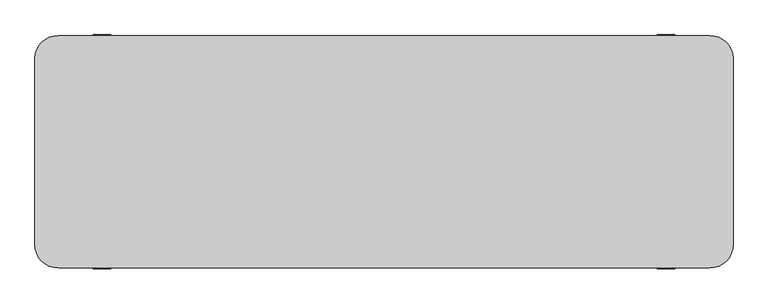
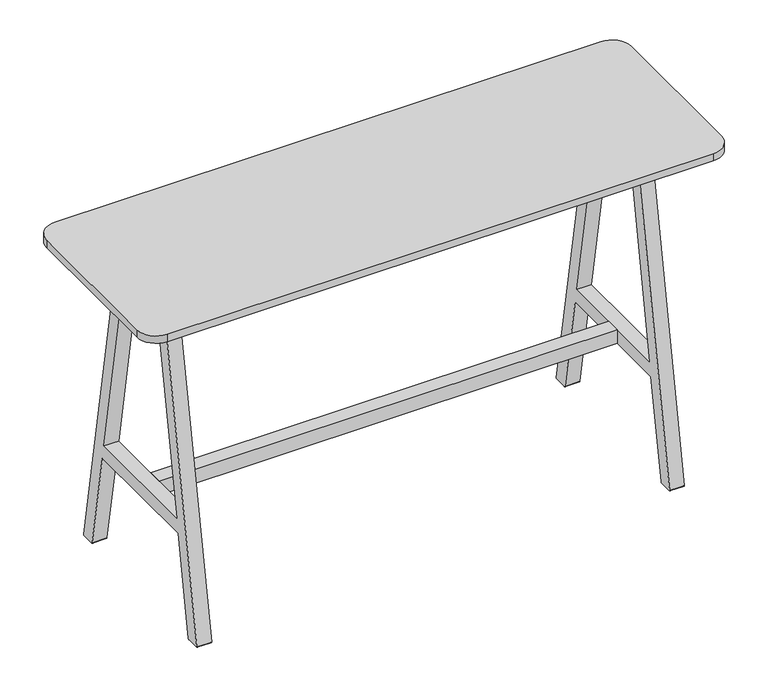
"""IFC4 building model written with IfcOpenShell, lengths in millimetres: furniture geometry, Furniture-Chair-LyndonDesign-Agent_AGE_10 : Furniture-Chair-LyndonDesign-Agent_AGE_10."""

import ifcopenshell
import ifcopenshell.guid

model = None  # the IFC model being written
_history = None  # IfcOwnerHistory: only IFC2X3 demands one
_inside = {}  # id of a spatial element -> (the spatial element, [elements in it])
_under = {}  # id of a project, library or spatial element -> (it, [spatial elements below it])
_declared = {}  # id of a project -> (the project, [libraries it declares])
_typed = {}  # id of a type object -> (the type object, [elements of that type])
_made_of = {}  # id of a material, layer set ... -> (it, [elements and type objects made of it])


def new_model(schema):
    """Start an empty IFC model of exactly this schema.

    Asked for "IFC4X3", IfcOpenShell would pick the latest addendum, in which some entities
    have other attributes; the version numbers below select the first issue.
    IFC2X3 requires an IfcOwnerHistory on every rooted entity: one is made here for all.
    """
    global model, _history
    if schema == "IFC4X3":
        model = ifcopenshell.file(schema_version=(4, 3, 0, 0))
    else:
        model = ifcopenshell.file(schema=schema)
    _inside.clear()
    _under.clear()
    _declared.clear()
    _typed.clear()
    _made_of.clear()
    _history = None
    if model.schema == "IFC2X3":
        org = make("IfcOrganization", Name="unknown")
        user = make(
            "IfcPersonAndOrganization",
            ThePerson=make("IfcPerson", FamilyName="unknown"),
            TheOrganization=org,
        )
        app = make(
            "IfcApplication",
            ApplicationDeveloper=org,
            Version="unknown",
            ApplicationFullName="unknown",
            ApplicationIdentifier="unknown",
        )
        _history = make(
            "IfcOwnerHistory",
            OwningUser=user,
            OwningApplication=app,
            ChangeAction="ADDED",
            CreationDate=0,
        )
    return model


def make(cls, **values):
    """One entity of the class cls with the attributes given. An attribute that is None is left unset."""
    return model.create_entity(
        cls, **{name: value for name, value in values.items() if value is not None}
    )


def rooted(cls, **values):
    """An entity with a GlobalId (a new one), such as an element, a storey or a relation."""
    return make(cls, GlobalId=ifcopenshell.guid.new(), OwnerHistory=_history, **values)


def si_unit(unit_type, name, prefix=None):
    """IfcSIUnit, for example si_unit("LENGTHUNIT", "METRE", prefix="MILLI")."""
    return make("IfcSIUnit", UnitType=unit_type, Prefix=prefix, Name=name)


def assignment(units):
    """IfcUnitAssignment: the units of a project."""
    return None if units is None else make("IfcUnitAssignment", Units=units)


def point(xyz):
    """IfcCartesianPoint."""
    return None if xyz is None else make("IfcCartesianPoint", Coordinates=xyz)


def direction(xyz):
    """IfcDirection."""
    return None if xyz is None else make("IfcDirection", DirectionRatios=xyz)


def frame(location, z_axis=None, x_axis=None):
    """IfcAxis2Placement3D, a coordinate frame: its origin and axes. An axis left out is left unset."""
    return make(
        "IfcAxis2Placement3D",
        Location=point(location),
        Axis=direction(z_axis),
        RefDirection=direction(x_axis),
    )


def frame_2d(location, x_axis=None):
    """IfcAxis2Placement2D, a coordinate frame in the plane: its origin and x axis."""
    return make(
        "IfcAxis2Placement2D", Location=point(location), RefDirection=direction(x_axis)
    )


def origin():
    """The frame at (0, 0, 0) with its axes left unset."""
    return frame((0.0, 0.0, 0.0))


def place(relative_to, where):
    """IfcLocalPlacement: puts the frame where relative to a parent placement (None: the world)."""
    return make(
        "IfcLocalPlacement", PlacementRelTo=relative_to, RelativePlacement=where
    )


def context(
    kind, dimensions, precision=None, world=None, true_north=None, identifier=None
):
    """IfcGeometricRepresentationContext, for example the 3D "Model" context."""
    return make(
        "IfcGeometricRepresentationContext",
        ContextIdentifier=identifier,
        ContextType=kind,
        CoordinateSpaceDimension=dimensions,
        Precision=precision,
        WorldCoordinateSystem=world,
        TrueNorth=true_north,
    )


def project(units=None, contexts=None):
    """IfcProject with its units and contexts."""
    return rooted(
        "IfcProject",
        Name="project",
        RepresentationContexts=contexts,
        UnitsInContext=assignment(units),
    )


def spatial(cls, under=None, at=None, **own):
    """A site, building, storey or space (cls), placed at a placement, below another one or the project."""
    s = rooted(cls, ObjectPlacement=at, **own)
    if under is not None:
        _under.setdefault(under.id(), (under, []))[1].append(s)
    return s


def polyline(points):
    """IfcPolyline through the points."""
    return make("IfcPolyline", Points=[point(p) for p in points])


def circle_curve(where, radius):
    """IfcCircle in the frame where."""
    return make("IfcCircle", Position=where, Radius=radius)


def trimmed(basis, trim1, trim2, sense, master):
    """IfcTrimmedCurve: the piece of a basis curve between two trims."""
    return make(
        "IfcTrimmedCurve",
        BasisCurve=basis,
        Trim1=trim1,
        Trim2=trim2,
        SenseAgreement=sense,
        MasterRepresentation=master,
    )


def segment(curve, same_sense, transition):
    """IfcCompositeCurveSegment."""
    return make(
        "IfcCompositeCurveSegment",
        Transition=transition,
        SameSense=same_sense,
        ParentCurve=curve,
    )


def composite_curve(segments, self_intersect=None):
    """IfcCompositeCurve: segments joined end to end."""
    return make("IfcCompositeCurve", Segments=segments, SelfIntersect=self_intersect)


def outline(outer, holes=None, kind="AREA"):
    """IfcArbitraryClosedProfileDef: a profile drawn as a closed curve; with holes, ...WithVoids."""
    if holes is None:
        return make("IfcArbitraryClosedProfileDef", ProfileType=kind, OuterCurve=outer)
    return make(
        "IfcArbitraryProfileDefWithVoids",
        ProfileType=kind,
        OuterCurve=outer,
        InnerCurves=holes,
    )


def extrude(swept, where, along, depth):
    """IfcExtrudedAreaSolid: the profile swept, set in the frame where, extruded along a direction by depth."""
    return make(
        "IfcExtrudedAreaSolid",
        SweptArea=swept,
        Position=where,
        ExtrudedDirection=direction(along),
        Depth=depth,
    )


def shape(context_of_items, identifier, shape_type, items):
    """IfcShapeRepresentation: the items that make up one representation, for example the "Body"."""
    return make(
        "IfcShapeRepresentation",
        ContextOfItems=context_of_items,
        RepresentationIdentifier=identifier,
        RepresentationType=shape_type,
        Items=items,
    )


def source(mapping_origin, context_of_items, identifier, shape_type, items):
    """IfcRepresentationMap: a shape defined once, which mapped items show again and again."""
    return make(
        "IfcRepresentationMap",
        MappingOrigin=mapping_origin,
        MappedRepresentation=shape(context_of_items, identifier, shape_type, items),
    )


def transform(
    local_origin,
    x_axis=None,
    y_axis=None,
    z_axis=None,
    scale=None,
    scale2=None,
    scale3=None,
    uniform=True,
):
    """IfcCartesianTransformationOperator3D, or its non-uniform kind. x_axis, y_axis, z_axis: its Axis1, 2, 3."""
    if uniform:
        return make(
            "IfcCartesianTransformationOperator3D",
            Axis1=direction(x_axis),
            Axis2=direction(y_axis),
            LocalOrigin=point(local_origin),
            Scale=scale,
            Axis3=direction(z_axis),
        )
    return make(
        "IfcCartesianTransformationOperator3DnonUniform",
        Axis1=direction(x_axis),
        Axis2=direction(y_axis),
        LocalOrigin=point(local_origin),
        Scale=scale,
        Axis3=direction(z_axis),
        Scale2=scale2,
        Scale3=scale3,
    )


def mapped(mapping_source, mapping_target):
    """IfcMappedItem: shows the shape of a source again, moved by a transform."""
    return make(
        "IfcMappedItem", MappingSource=mapping_source, MappingTarget=mapping_target
    )


def made_of(thing, what):
    """Note that an element or type object is made of a material, layer set ...; save() writes the relation."""
    if what is not None:
        _made_of.setdefault(what.id(), (what, []))[1].append(thing)
    return thing


def element(
    cls,
    number,
    at=None,
    inside=None,
    cuts=None,
    type_object=None,
    material=None,
    context=None,
    identifier="Body",
    shape_type=None,
    held_by="IfcProductDefinitionShape",
    body=None,
    shapes=None,
    **own,
):
    """One element of the class cls, such as IfcWall. Its Tag is "e" and its number.

    at: its placement. inside: the storey or other place that contains it. cuts: it is an
    opening in that element (IfcRelVoidsElement). A single representation is given by context,
    identifier, shape_type and body (its items); several are given by shapes. held_by: the class
    of the entity that holds the representations. save() writes the other relations.
    """
    e = rooted(cls, Tag="e%d" % number, ObjectPlacement=at, **own)
    if body is not None:
        shapes = [shape(context, identifier, shape_type, body)]
    if shapes is not None:
        e.Representation = make(held_by, Representations=shapes)
    if inside is not None:
        _inside.setdefault(inside.id(), (inside, []))[1].append(e)
    if cuts is not None:
        rooted(
            "IfcRelVoidsElement", RelatingBuildingElement=cuts, RelatedOpeningElement=e
        )
    if type_object is not None:
        _typed.setdefault(type_object.id(), (type_object, []))[1].append(e)
    return made_of(e, material)


def aggregate(whole, parts):
    """IfcRelAggregates: a whole, such as a stair, and the parts it consists of."""
    return rooted("IfcRelAggregates", RelatingObject=whole, RelatedObjects=parts)


def save(model, path):
    """Write the relations noted so far, then the file.

    IfcRelAggregates (storeys below a building ...), IfcRelContainedInSpatialStructure (elements
    in a storey), IfcRelDefinesByType, IfcRelAssociatesMaterial and IfcRelDeclares: one each for
    every whole, place, type object, material and project.
    """
    for whole, parts in _under.values():
        aggregate(whole, parts)
    for where, things in _inside.values():
        rooted(
            "IfcRelContainedInSpatialStructure",
            RelatedElements=things,
            RelatingStructure=where,
        )
    for kind, things in _typed.values():
        rooted("IfcRelDefinesByType", RelatedObjects=things, RelatingType=kind)
    for what, things in _made_of.values():
        rooted("IfcRelAssociatesMaterial", RelatedObjects=things, RelatingMaterial=what)
    for by, libraries in _declared.values():
        rooted("IfcRelDeclares", RelatingContext=by, RelatedDefinitions=libraries)
    model.write(path)


def furniture_8b7b97e6(model_context):
    return source(origin(), model_context, "Body", "SweptSolid", [
        extrude(outline(polyline([(-124.2925259, 946.4629989), (-110.2680065, 1026.0), (-85.8977679, 1026.0), (-100.657585, 942.292918), (-124.2925259, 946.4629989)])), frame((-704.9999416, 0.0, 0.0), z_axis=(1.0, 0.0, 0.0), x_axis=(0.0, 1.0, 0.0)), (0.0, 0.0, 1.0), 1410.0),
        extrude(outline(polyline([(124.2925259, 946.4629989), (100.657585, 942.292918), (85.8977679, 1026.0), (110.2680065, 1026.0), (124.2925259, 946.4629989)])), frame((-704.9999416, 0.0, 0.0), z_axis=(1.0, 0.0, 0.0), x_axis=(0.0, 1.0, 0.0)), (0.0, 0.0, 1.0), 1410.0),
        extrude(outline(polyline([(705.0000584, -22.5), (-704.9999416, -22.5), (-704.9999416, 22.5), (705.0000584, 22.5), (705.0000584, -22.5)])), frame((0.0, 0.0, 311.000006), z_axis=(0.0, 0.0, 1.0), x_axis=(1.0, 0.0, 0.0)), (0.0, 0.0, 1.0), 44.9999869),
        extrude(outline(composite_curve([segment(trimmed(circle_curve(frame_2d((178.499994, 1029.9999908)), 44.0000027), [point((222.3178022, 1026.0))], [point((178.499994, 985.9999881))], False, "CARTESIAN"), True, "CONTINUOUS"), segment(polyline([(178.499994, 985.9999881), (142.6314983, 985.9999881)]), True, "CONTINUOUS"), segment(trimmed(circle_curve(frame_2d((142.6314983, 973.9754464)), 12.0245417), [point((142.6314983, 985.9999881))], [point((130.6287068, 973.2525357))], True, "CARTESIAN"), True, "CONTINUOUS"), segment(polyline([(130.6287068, 973.2525357), (301.8254972, 2.3472964)]), True, "CONTINUOUS"), segment(trimmed(circle_curve(frame_2d((299.8558817, 2.0)), 2.0), [point((301.8254972, 2.3472964))], [point((299.8558817, 0.0))], False, "CARTESIAN"), True, "CONTINUOUS"), segment(polyline([(299.8558817, 0.0), (259.8825388, 0.0)]), True, "CONTINUOUS"), segment(trimmed(circle_curve(frame_2d((259.8825388, 3.9773014)), 3.9773014), [point((259.8825388, 0.0))], [point((255.9656616, 3.2866503))], False, "CARTESIAN"), True, "CONTINUOUS"), segment(polyline([(255.9656616, 3.2866503), (201.7074943, 311.000006), (-201.7804075, 311.000006), (-256.0692295, 3.3049865)]), True, "CONTINUOUS"), segment(trimmed(circle_curve(frame_2d((-260.0083863, 4.0)), 4.0), [point((-256.0692295, 3.3049865))], [point((-260.0083863, 0.0))], False, "CARTESIAN"), True, "CONTINUOUS"), segment(polyline([(-260.0083863, 0.0), (-299.9616001, 0.0)]), True, "CONTINUOUS"), segment(trimmed(circle_curve(frame_2d((-299.9616001, 2.0)), 2.0), [point((-299.9616001, 0.0))], [point((-301.9312156, 2.3472964))], False, "CARTESIAN"), True, "CONTINUOUS"), segment(polyline([(-301.9312156, 2.3472964), (-130.6069566, 973.9754464)]), True, "CONTINUOUS"), segment(trimmed(circle_curve(frame_2d((-142.6314983, 973.9754464)), 12.0245417), [point((-130.6069566, 973.9754464))], [point((-142.6314983, 985.9999881))], True, "CARTESIAN"), True, "CONTINUOUS"), segment(polyline([(-142.6314983, 985.9999881), (-178.499994, 985.9999881)]), True, "CONTINUOUS"), segment(trimmed(circle_curve(frame_2d((-178.499994, 1029.9999908)), 44.0000027), [point((-178.499994, 985.9999881))], [point((-222.3178022, 1026.0))], False, "CARTESIAN"), True, "CONTINUOUS"), segment(polyline([(-222.3178022, 1026.0), (222.3178022, 1026.0)]), True, "CONTINUOUS")], self_intersect=False), holes=[composite_curve([segment(trimmed(circle_curve(frame_2d((-67.9999973, 968.4119913)), 17.5879967), [point((-67.9999973, 985.9999881))], [point((-84.9790372, 973.0000012))], True, "CARTESIAN"), True, "CONTINUOUS"), segment(polyline([(-84.9790372, 973.0000012), (-193.8407396, 355.9999928), (193.7727825, 355.9999928), (84.9790259, 973.0000428)]), True, "CONTINUOUS"), segment(trimmed(circle_curve(frame_2d((67.9999973, 968.4119913)), 17.5879967), [point((84.9790259, 973.0000428))], [point((67.9999973, 985.9999881))], True, "CARTESIAN"), True, "CONTINUOUS"), segment(polyline([(67.9999973, 985.9999881), (-67.9999973, 985.9999881)]), True, "CONTINUOUS")], self_intersect=False)]), frame((-749.9999416, 0.0, 0.0), z_axis=(1.0, 0.0, 0.0), x_axis=(0.0, 1.0, 0.0)), (0.0, 0.0, 1.0), 45.0),
        extrude(outline(composite_curve([segment(trimmed(circle_curve(frame_2d((178.499994, 1029.9999908)), 44.0000027), [point((222.3178022, 1026.0))], [point((178.499994, 985.9999881))], False, "CARTESIAN"), True, "CONTINUOUS"), segment(polyline([(178.499994, 985.9999881), (142.6314983, 985.9999881)]), True, "CONTINUOUS"), segment(trimmed(circle_curve(frame_2d((142.6314983, 973.9754464)), 12.0245417), [point((142.6314983, 985.9999881))], [point((130.6287068, 973.2525357))], True, "CARTESIAN"), True, "CONTINUOUS"), segment(polyline([(130.6287068, 973.2525357), (301.8254972, 2.3472964)]), True, "CONTINUOUS"), segment(trimmed(circle_curve(frame_2d((299.8558817, 2.0)), 2.0), [point((301.8254972, 2.3472964))], [point((299.8558817, 0.0))], False, "CARTESIAN"), True, "CONTINUOUS"), segment(polyline([(299.8558817, 0.0), (259.8825388, 0.0)]), True, "CONTINUOUS"), segment(trimmed(circle_curve(frame_2d((259.8825388, 3.9773014)), 3.9773014), [point((259.8825388, 0.0))], [point((255.9656616, 3.2866503))], False, "CARTESIAN"), True, "CONTINUOUS"), segment(polyline([(255.9656616, 3.2866503), (201.7074943, 311.000006), (-201.7804075, 311.000006), (-256.0692295, 3.3049865)]), True, "CONTINUOUS"), segment(trimmed(circle_curve(frame_2d((-260.0083863, 4.0)), 4.0), [point((-256.0692295, 3.3049865))], [point((-260.0083863, 0.0))], False, "CARTESIAN"), True, "CONTINUOUS"), segment(polyline([(-260.0083863, 0.0), (-299.9616001, 0.0)]), True, "CONTINUOUS"), segment(trimmed(circle_curve(frame_2d((-299.9616001, 2.0)), 2.0), [point((-299.9616001, 0.0))], [point((-301.9312156, 2.3472964))], False, "CARTESIAN"), True, "CONTINUOUS"), segment(polyline([(-301.9312156, 2.3472964), (-130.6069566, 973.9754464)]), True, "CONTINUOUS"), segment(trimmed(circle_curve(frame_2d((-142.6314983, 973.9754464)), 12.0245417), [point((-130.6069566, 973.9754464))], [point((-142.6314983, 985.9999881))], True, "CARTESIAN"), True, "CONTINUOUS"), segment(polyline([(-142.6314983, 985.9999881), (-178.499994, 985.9999881)]), True, "CONTINUOUS"), segment(trimmed(circle_curve(frame_2d((-178.499994, 1029.9999908)), 44.0000027), [point((-178.499994, 985.9999881))], [point((-222.3178022, 1026.0))], False, "CARTESIAN"), True, "CONTINUOUS"), segment(polyline([(-222.3178022, 1026.0), (222.3178022, 1026.0)]), True, "CONTINUOUS")], self_intersect=False), holes=[composite_curve([segment(trimmed(circle_curve(frame_2d((-67.9999973, 968.4119913)), 17.5879967), [point((-67.9999973, 985.9999881))], [point((-84.9790372, 973.0000012))], True, "CARTESIAN"), True, "CONTINUOUS"), segment(polyline([(-84.9790372, 973.0000012), (-193.8407396, 355.9999928), (193.7727825, 355.9999928), (84.9790259, 973.0000428)]), True, "CONTINUOUS"), segment(trimmed(circle_curve(frame_2d((67.9999973, 968.4119913)), 17.5879967), [point((84.9790259, 973.0000428))], [point((67.9999973, 985.9999881))], True, "CARTESIAN"), True, "CONTINUOUS"), segment(polyline([(67.9999973, 985.9999881), (-67.9999973, 985.9999881)]), True, "CONTINUOUS")], self_intersect=False)]), frame((705.0000584, 0.0, 0.0), z_axis=(1.0, 0.0, 0.0), x_axis=(0.0, 1.0, 0.0)), (0.0, 0.0, 1.0), 45.0),
        extrude(outline(composite_curve([segment(polyline([(-839.9999774, 300.0000071), (840.0000345, 300.0000071)]), True, "CONTINUOUS"), segment(trimmed(circle_curve(frame_2d((840.0000345, 240.0000071)), 60.0), [point((840.0000345, 300.0000071))], [point((900.0000345, 240.0000071))], False, "CARTESIAN"), True, "CONTINUOUS"), segment(polyline([(900.0000345, 240.0000071), (900.0000345, -240.0000021)]), True, "CONTINUOUS"), segment(trimmed(circle_curve(frame_2d((840.0000345, -240.0000021)), 60.0), [point((900.0000345, -240.0000021))], [point((840.0000345, -300.0000021))], False, "CARTESIAN"), True, "CONTINUOUS"), segment(polyline([(840.0000345, -300.0000021), (-839.9999774, -300.0000021)]), True, "CONTINUOUS"), segment(trimmed(circle_curve(frame_2d((-839.9999774, -240.0000021)), 60.0), [point((-839.9999774, -300.0000021))], [point((-899.9999774, -240.0000021))], False, "CARTESIAN"), True, "CONTINUOUS"), segment(polyline([(-899.9999774, -240.0000021), (-899.9999774, 240.0000071)]), True, "CONTINUOUS"), segment(trimmed(circle_curve(frame_2d((-839.9999774, 240.0000071)), 60.0), [point((-899.9999774, 240.0000071))], [point((-839.9999774, 300.0000071))], False, "CARTESIAN"), True, "CONTINUOUS")], self_intersect=False)), frame((0.0, 0.0, 1026.0), z_axis=(0.0, 0.0, 1.0), x_axis=(1.0, 0.0, 0.0)), (0.0, 0.0, 1.0), 24.0),
    ])


if __name__ == "__main__":
    model = new_model("IFC4")
    model_context = context("Model", 3, world=origin())
    ifc_project = project(units=[si_unit("LENGTHUNIT", "METRE", prefix="MILLI")], contexts=[model_context])
    site = spatial("IfcSite", under=ifc_project)
    building = spatial("IfcBuilding", under=site)
    placement = place(None, origin())
    furniture_shape = furniture_8b7b97e6(model_context)
    element("IfcFurniture", 1, ObjectType="Furniture-Chair-LyndonDesign-Agent_AGE_10 : Furniture-Chair-LyndonDesign-Agent_AGE_10", at=placement, inside=building, context=model_context, shape_type="MappedRepresentation", body=[
        mapped(furniture_shape, transform((0.0, 0.0, 0.0), x_axis=(1.0, 0.0, 0.0), y_axis=(0.0, 1.0, 0.0), z_axis=(0.0, 0.0, 1.0))),
    ])
    save(model, "model.ifc")
